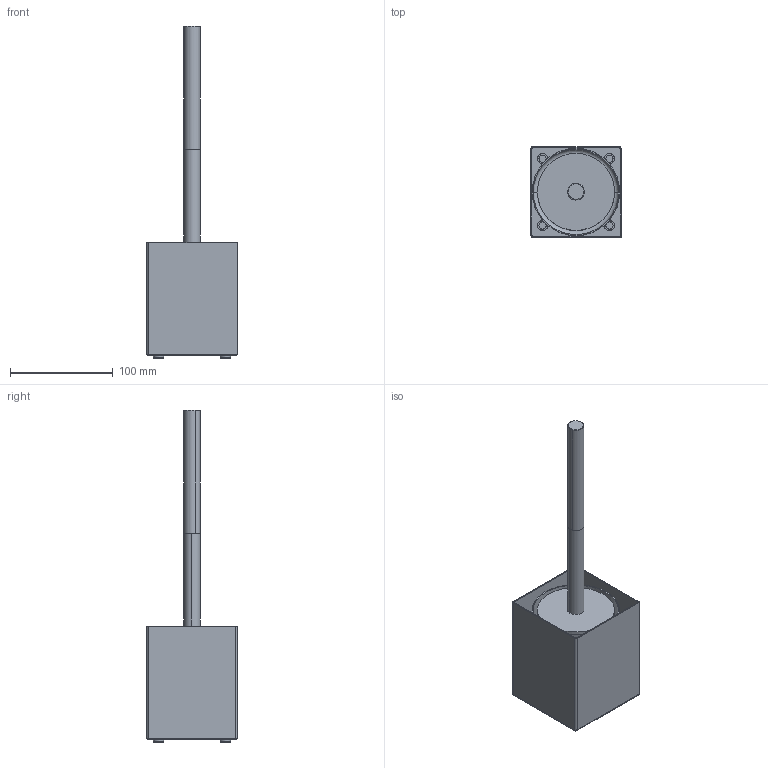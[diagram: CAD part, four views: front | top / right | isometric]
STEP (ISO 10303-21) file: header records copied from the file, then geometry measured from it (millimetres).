
FILE_DESCRIPTION (( 'STEP AP203' ), '1' );
FILE_NAME ('Szczotka do WC bez pokrywki LOPY.STEP', '2022-03-28T11:02:40', ( '' ), ( '' ), 'SwSTEP 2.0', 'SolidWorks 2021', '' );
FILE_SCHEMA (( 'CONFIG_CONTROL_DESIGN' ));
Length unit declared in the file: millimetre
Products named in the file (8): 08-003-0075-S-00-00; Szczotka do WC bez pokrywki LOPY; szczotka gwint m6; kubek szczotki; stopka gumowa 10mm_7mm; 04-001-0362-S-00-03; 08-003-0075-S-00-02; 08-003-0075-S-00-01
Assembly tree (10 placements, depth 3):
  Szczotka do WC bez pokrywki LOPY
    08-003-0075-S-00-00
      08-003-0075-S-00-01
      08-003-0075-S-00-02
    kubek szczotki
    szczotka gwint m6
    04-001-0362-S-00-03
    stopka gumowa 10mm_7mm  x4
Bounding box: 88 x 88 x 323 mm (x, y, z)
Volume: 391136.5 mm3; surface area: 189879.5 mm2
Topology: 9 solids, 9 shells, 161 faces, 362 edges, 223 vertices
Faces by surface type: cylinder 84, plane 52, torus 14, cone 8, bspline 3
Entity records: 7668 total; most frequent: CARTESIAN_POINT 3863, ORIENTED_EDGE 620, DIRECTION 601, EDGE_CURVE 310, AXIS2_PLACEMENT_3D 229, VERTEX_POINT 193, EDGE_LOOP 147, LINE 143
